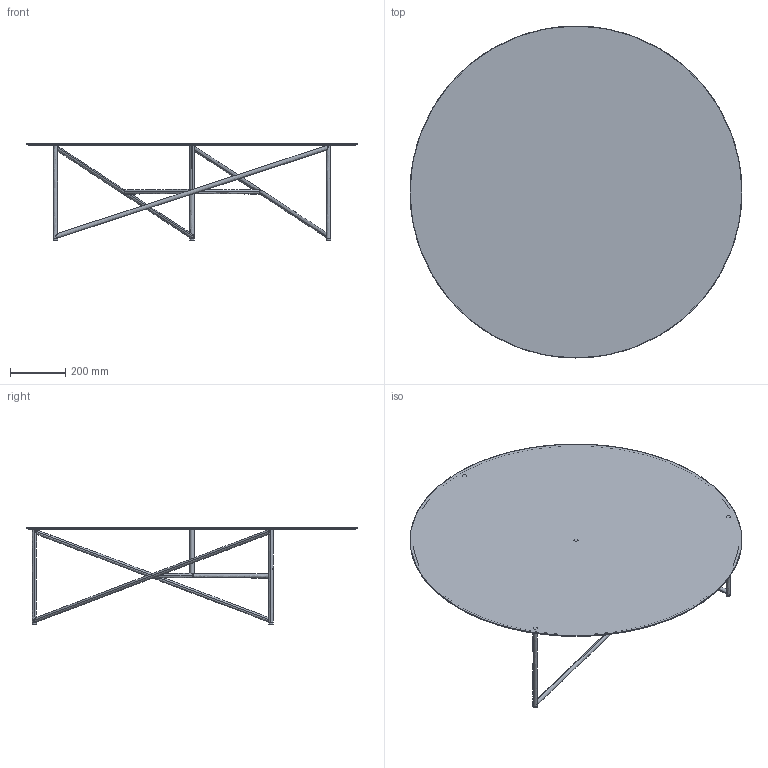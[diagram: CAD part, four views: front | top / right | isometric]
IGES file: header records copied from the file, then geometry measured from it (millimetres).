
Start section: SolidWorks IGES file using analytic representation for surfaces
Global section: file name: \\utenti\Dati Utenti\Tecnico\DC\2D - 3D per sito\3D\DeCastelli-3D-Parsec 120.igs; native system: SolidWorks 2022; preprocessor: SolidWorks 2022; author: Simonep; date: 240729.120503; units: millimetre
Bounding box: 1200 x 1200 x 350.04 mm (x, y, z)
Surface area: 3640139.4 mm2 (no closed solid volume)
Topology: 0 solids, 0 shells, 75 faces, 1619 edges, 1613 vertices
Faces by surface type: bspline 43, revolution 32
